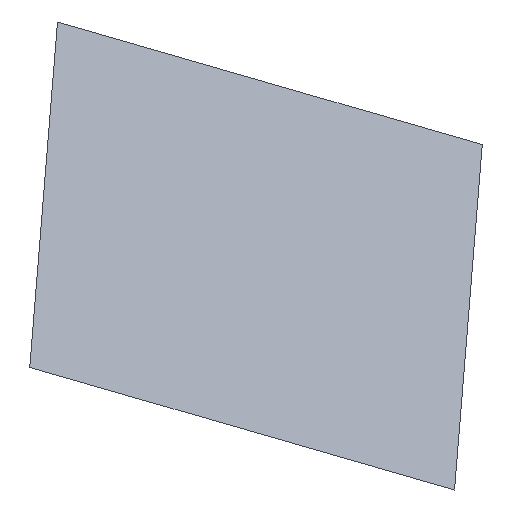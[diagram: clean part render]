
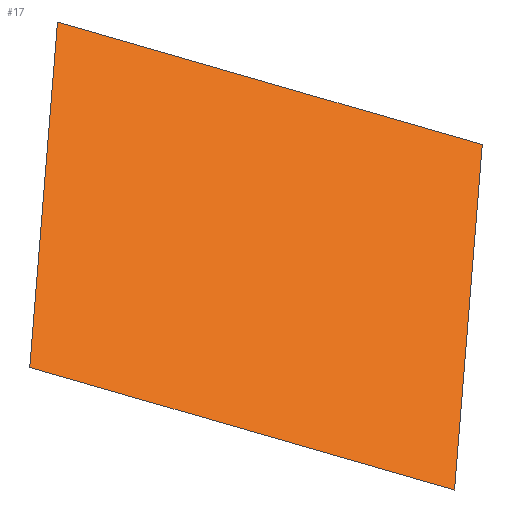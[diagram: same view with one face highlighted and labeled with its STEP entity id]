
A CAD part, left-side view. The second image highlights one B-rep face of the part: STEP entity #17.
In plain terms, the highlighted planar face has unit normal (0.813, 0.511, -0.279).
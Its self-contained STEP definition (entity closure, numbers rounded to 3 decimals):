
#17 = ADVANCED_FACE('',(#18),#52,.T.);
#18 = FACE_BOUND('',#19,.T.);
#19 = EDGE_LOOP('',(#20,#30,#38,#46));
#20 = ORIENTED_EDGE('',*,*,#21,.F.);
#21 = EDGE_CURVE('',#22,#24,#26,.T.);
#22 = VERTEX_POINT('',#23);
#23 = CARTESIAN_POINT('',(347.562,-38.645,
    466.576));
#24 = VERTEX_POINT('',#25);
#25 = CARTESIAN_POINT('',(353.035,-39.763,
    480.497));
#26 = LINE('',#27,#28);
#27 = CARTESIAN_POINT('',(347.562,-38.645,
    466.576));
#28 = VECTOR('',#29,1.);
#29 = DIRECTION('',(0.365,-0.075,0.928));
#30 = ORIENTED_EDGE('',*,*,#31,.T.);
#31 = EDGE_CURVE('',#22,#32,#34,.T.);
#32 = VERTEX_POINT('',#33);
#33 = CARTESIAN_POINT('',(338.487,-21.522,
    471.519));
#34 = LINE('',#35,#36);
#35 = CARTESIAN_POINT('',(347.562,-38.645,
    466.576));
#36 = VECTOR('',#37,1.);
#37 = DIRECTION('',(-0.454,0.856,0.247));
#38 = ORIENTED_EDGE('',*,*,#39,.T.);
#39 = EDGE_CURVE('',#32,#40,#42,.T.);
#40 = VERTEX_POINT('',#41);
#41 = CARTESIAN_POINT('',(343.96,-22.64,
    485.44));
#42 = LINE('',#43,#44);
#43 = CARTESIAN_POINT('',(338.487,-21.522,
    471.519));
#44 = VECTOR('',#45,1.);
#45 = DIRECTION('',(0.365,-0.075,0.928));
#46 = ORIENTED_EDGE('',*,*,#47,.F.);
#47 = EDGE_CURVE('',#24,#40,#48,.T.);
#48 = LINE('',#49,#50);
#49 = CARTESIAN_POINT('',(353.035,-39.763,
    480.497));
#50 = VECTOR('',#51,1.);
#51 = DIRECTION('',(-0.454,0.856,0.247));
#52 = PLANE('',#53);
#53 = AXIS2_PLACEMENT_3D('',#54,#55,#56);
#54 = CARTESIAN_POINT('',(347.562,-38.645,
    466.576));
#55 = DIRECTION('',(0.813,0.511,-0.279));
#56 = DIRECTION('',(0.365,-0.075,0.928));
